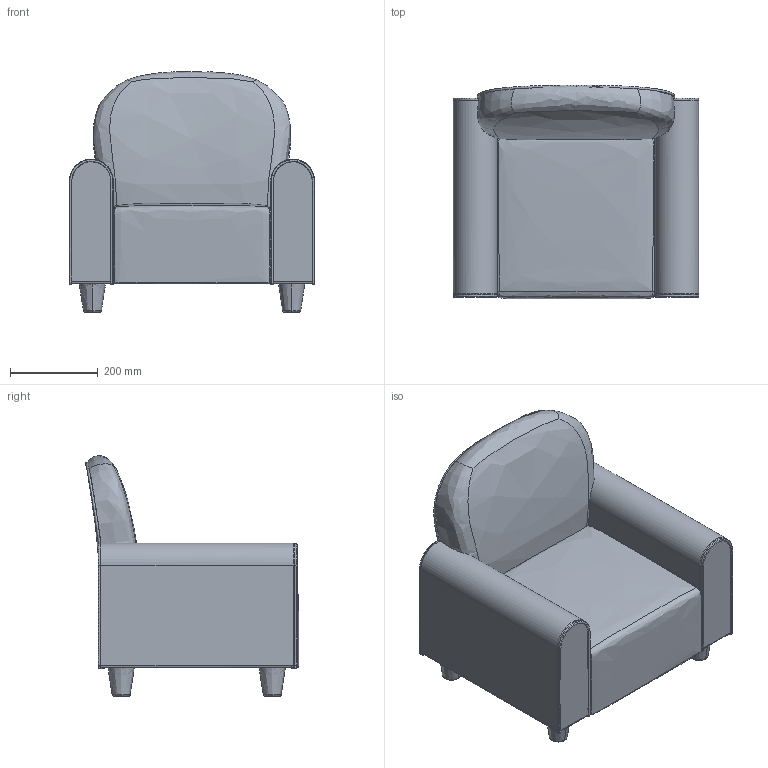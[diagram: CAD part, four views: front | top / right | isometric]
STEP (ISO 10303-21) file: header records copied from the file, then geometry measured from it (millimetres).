
FILE_DESCRIPTION(/* description */ (''),/* implementation_level */ '2;1');
FILE_NAME(/* name */ 'kinoshita_baobabland_k005',/* time_stamp */ '2025-05-29T12:40:13+09:00',/* author */ (''),/* organization */ (''),/* preprocessor_version */ 'ST-DEVELOPER v16.5',/* originating_system */ '',/* authorisation */ '');
FILE_SCHEMA (('AUTOMOTIVE_DESIGN'));
Length unit declared in the file: millimetre
Products named in the file (1): Document
Bounding box: 560.85 x 486.96 x 549.85 mm (x, y, z)
Volume: 64001116.3 mm3; surface area: 1889885.2 mm2
Topology: 13 solids, 13 shells, 184 faces, 416 edges, 247 vertices
Faces by surface type: bspline 153, plane 31
Entity records: 61307 total; most frequent: CARTESIAN_POINT 58689, ORIENTED_EDGE 814, EDGE_CURVE 407, B_SPLINE_CURVE_WITH_KNOTS 335, VERTEX_POINT 247, ADVANCED_FACE 184, FACE_OUTER_BOUND 184, EDGE_LOOP 184
